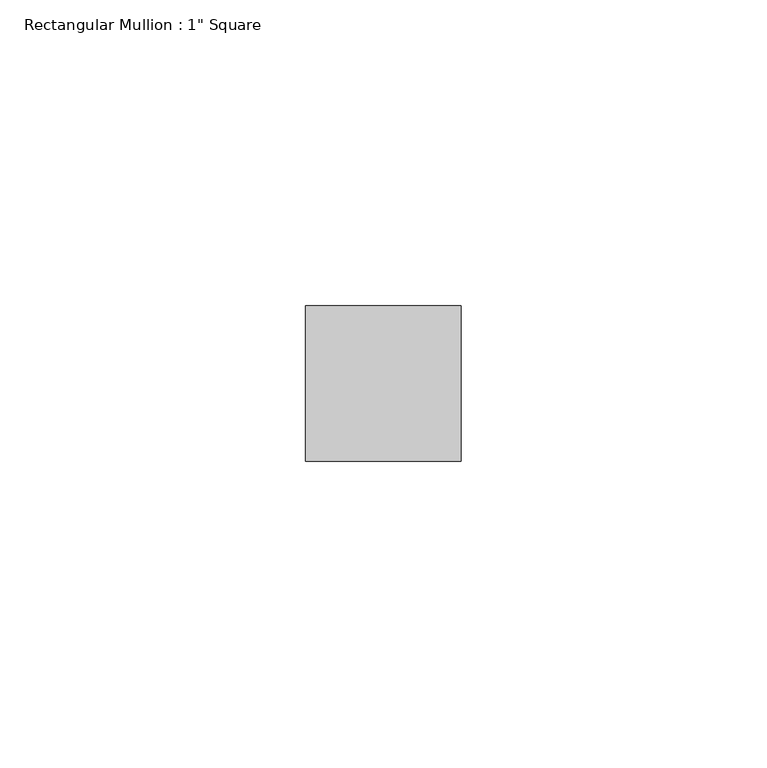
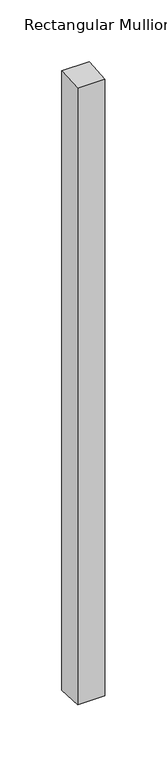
"""IFC4 building model written with IfcOpenShell, lengths in millimetres: member geometry."""

from ifc_helpers import new_model, si_unit, frame, origin, place, context, project, spatial, polyline, outline, extrude, source, transform, mapped, element, save


def member_0cd36c09(model_context):
    return source(origin(), model_context, "Body", "SweptSolid", [
        extrude(outline(polyline([(-12.7, -0.7587411), (12.7, 0.7587411), (12.7, -610.3587411), (-12.7, -608.8412589), (-12.7, -0.7587411)])), frame((-12.7, 0.0, 0.0), z_axis=(1.0, 0.0, 0.0), x_axis=(0.0, 1.0, 0.0)), (0.0, 0.0, 1.0), 25.4),
    ])


if __name__ == "__main__":
    model = new_model("IFC4")
    model_context = context("Model", 3, world=origin())
    ifc_project = project(units=[si_unit("LENGTHUNIT", "METRE", prefix="MILLI")], contexts=[model_context])
    site = spatial("IfcSite", under=ifc_project)
    building = spatial("IfcBuilding", under=site)
    placement = place(None, origin())
    member_shape = member_0cd36c09(model_context)
    element("IfcMember", 1, ObjectType="Rectangular Mullion : 1\" Square", at=placement, inside=building, context=model_context, shape_type="MappedRepresentation", body=[
        mapped(member_shape, transform((0.0, 0.0, 0.0), x_axis=(1.0, 0.0, 0.0), y_axis=(0.0, 1.0, 0.0), z_axis=(0.0, 0.0, 1.0))),
    ])
    save(model, "model.ifc")
